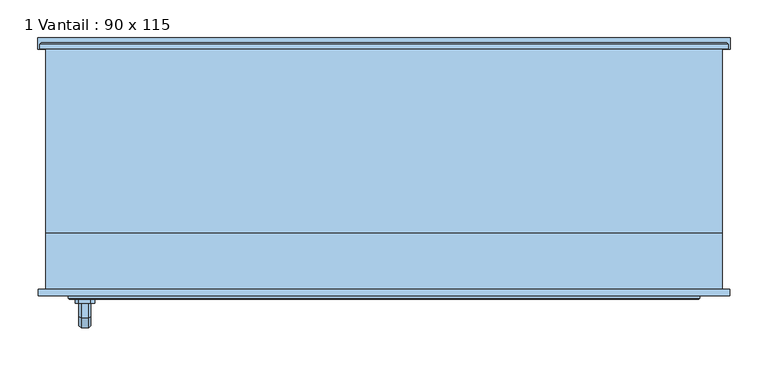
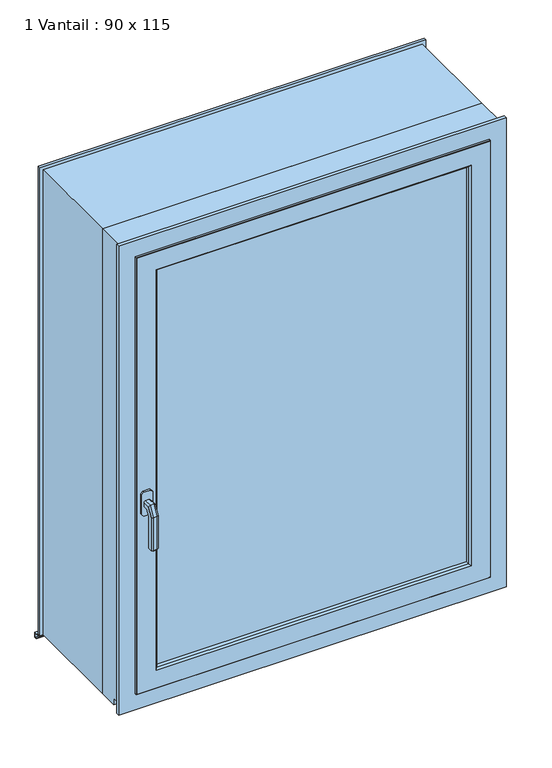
"""IFC4 building model written with IfcOpenShell, lengths in millimetres: window geometry, 1 Vantail : 90 x 115."""

import ifcopenshell
import ifcopenshell.guid

model = None  # the IFC model being written
_history = None  # IfcOwnerHistory: only IFC2X3 demands one
_inside = {}  # id of a spatial element -> (the spatial element, [elements in it])
_under = {}  # id of a project, library or spatial element -> (it, [spatial elements below it])
_declared = {}  # id of a project -> (the project, [libraries it declares])
_typed = {}  # id of a type object -> (the type object, [elements of that type])
_made_of = {}  # id of a material, layer set ... -> (it, [elements and type objects made of it])


def new_model(schema):
    """Start an empty IFC model of exactly this schema.

    Asked for "IFC4X3", IfcOpenShell would pick the latest addendum, in which some entities
    have other attributes; the version numbers below select the first issue.
    IFC2X3 requires an IfcOwnerHistory on every rooted entity: one is made here for all.
    """
    global model, _history
    if schema == "IFC4X3":
        model = ifcopenshell.file(schema_version=(4, 3, 0, 0))
    else:
        model = ifcopenshell.file(schema=schema)
    _inside.clear()
    _under.clear()
    _declared.clear()
    _typed.clear()
    _made_of.clear()
    _history = None
    if model.schema == "IFC2X3":
        org = make("IfcOrganization", Name="unknown")
        user = make(
            "IfcPersonAndOrganization",
            ThePerson=make("IfcPerson", FamilyName="unknown"),
            TheOrganization=org,
        )
        app = make(
            "IfcApplication",
            ApplicationDeveloper=org,
            Version="unknown",
            ApplicationFullName="unknown",
            ApplicationIdentifier="unknown",
        )
        _history = make(
            "IfcOwnerHistory",
            OwningUser=user,
            OwningApplication=app,
            ChangeAction="ADDED",
            CreationDate=0,
        )
    return model


def make(cls, **values):
    """One entity of the class cls with the attributes given. An attribute that is None is left unset."""
    return model.create_entity(
        cls, **{name: value for name, value in values.items() if value is not None}
    )


def rooted(cls, **values):
    """An entity with a GlobalId (a new one), such as an element, a storey or a relation."""
    return make(cls, GlobalId=ifcopenshell.guid.new(), OwnerHistory=_history, **values)


def si_unit(unit_type, name, prefix=None):
    """IfcSIUnit, for example si_unit("LENGTHUNIT", "METRE", prefix="MILLI")."""
    return make("IfcSIUnit", UnitType=unit_type, Prefix=prefix, Name=name)


def assignment(units):
    """IfcUnitAssignment: the units of a project."""
    return None if units is None else make("IfcUnitAssignment", Units=units)


def point(xyz):
    """IfcCartesianPoint."""
    return None if xyz is None else make("IfcCartesianPoint", Coordinates=xyz)


def direction(xyz):
    """IfcDirection."""
    return None if xyz is None else make("IfcDirection", DirectionRatios=xyz)


def frame(location, z_axis=None, x_axis=None):
    """IfcAxis2Placement3D, a coordinate frame: its origin and axes. An axis left out is left unset."""
    return make(
        "IfcAxis2Placement3D",
        Location=point(location),
        Axis=direction(z_axis),
        RefDirection=direction(x_axis),
    )


def origin():
    """The frame at (0, 0, 0) with its axes left unset."""
    return frame((0.0, 0.0, 0.0))


def place(relative_to, where):
    """IfcLocalPlacement: puts the frame where relative to a parent placement (None: the world)."""
    return make(
        "IfcLocalPlacement", PlacementRelTo=relative_to, RelativePlacement=where
    )


def context(
    kind, dimensions, precision=None, world=None, true_north=None, identifier=None
):
    """IfcGeometricRepresentationContext, for example the 3D "Model" context."""
    return make(
        "IfcGeometricRepresentationContext",
        ContextIdentifier=identifier,
        ContextType=kind,
        CoordinateSpaceDimension=dimensions,
        Precision=precision,
        WorldCoordinateSystem=world,
        TrueNorth=true_north,
    )


def project(units=None, contexts=None):
    """IfcProject with its units and contexts."""
    return rooted(
        "IfcProject",
        Name="project",
        RepresentationContexts=contexts,
        UnitsInContext=assignment(units),
    )


def spatial(cls, under=None, at=None, **own):
    """A site, building, storey or space (cls), placed at a placement, below another one or the project."""
    s = rooted(cls, ObjectPlacement=at, **own)
    if under is not None:
        _under.setdefault(under.id(), (under, []))[1].append(s)
    return s


def polyline(points):
    """IfcPolyline through the points."""
    return make("IfcPolyline", Points=[point(p) for p in points])


def outline(outer, holes=None, kind="AREA"):
    """IfcArbitraryClosedProfileDef: a profile drawn as a closed curve; with holes, ...WithVoids."""
    if holes is None:
        return make("IfcArbitraryClosedProfileDef", ProfileType=kind, OuterCurve=outer)
    return make(
        "IfcArbitraryProfileDefWithVoids",
        ProfileType=kind,
        OuterCurve=outer,
        InnerCurves=holes,
    )


def extrude(swept, where, along, depth):
    """IfcExtrudedAreaSolid: the profile swept, set in the frame where, extruded along a direction by depth."""
    return make(
        "IfcExtrudedAreaSolid",
        SweptArea=swept,
        Position=where,
        ExtrudedDirection=direction(along),
        Depth=depth,
    )


def faces_of(points, faces, orient=None, outer=None):
    """IfcFace entities. A face is a list of loops; a loop is a list of indices into points, from 0.

    orient and outer hold one flag for each loop. By default every Orientation is true, the
    first loop of a face is its IfcFaceOuterBound and the others are IfcFaceBound.
    """
    made = []
    for i, loops in enumerate(faces):
        bounds = []
        for j, loop in enumerate(loops):
            is_outer = j == 0 if outer is None else outer[i][j]
            bounds.append(
                make(
                    "IfcFaceOuterBound" if is_outer else "IfcFaceBound",
                    Bound=make("IfcPolyLoop", Polygon=[points[k] for k in loop]),
                    Orientation=True if orient is None else orient[i][j],
                )
            )
        made.append(make("IfcFace", Bounds=bounds))
    return made


def faceted_brep(points, faces, orient=None, outer=None, voids=None):
    """IfcFacetedBrep: a solid bounded by flat faces; with voids (closed shells), ...WithVoids."""
    shared = [point(p) for p in points]
    hull = make("IfcClosedShell", CfsFaces=faces_of(shared, faces, orient, outer))
    if voids is None:
        return make("IfcFacetedBrep", Outer=hull)
    return make(
        "IfcFacetedBrepWithVoids",
        Outer=hull,
        Voids=[
            make(cls, CfsFaces=faces_of(shared, fs, o, b)) for cls, fs, o, b in voids
        ],
    )


def shape(context_of_items, identifier, shape_type, items):
    """IfcShapeRepresentation: the items that make up one representation, for example the "Body"."""
    return make(
        "IfcShapeRepresentation",
        ContextOfItems=context_of_items,
        RepresentationIdentifier=identifier,
        RepresentationType=shape_type,
        Items=items,
    )


def source(mapping_origin, context_of_items, identifier, shape_type, items):
    """IfcRepresentationMap: a shape defined once, which mapped items show again and again."""
    return make(
        "IfcRepresentationMap",
        MappingOrigin=mapping_origin,
        MappedRepresentation=shape(context_of_items, identifier, shape_type, items),
    )


def transform(
    local_origin,
    x_axis=None,
    y_axis=None,
    z_axis=None,
    scale=None,
    scale2=None,
    scale3=None,
    uniform=True,
):
    """IfcCartesianTransformationOperator3D, or its non-uniform kind. x_axis, y_axis, z_axis: its Axis1, 2, 3."""
    if uniform:
        return make(
            "IfcCartesianTransformationOperator3D",
            Axis1=direction(x_axis),
            Axis2=direction(y_axis),
            LocalOrigin=point(local_origin),
            Scale=scale,
            Axis3=direction(z_axis),
        )
    return make(
        "IfcCartesianTransformationOperator3DnonUniform",
        Axis1=direction(x_axis),
        Axis2=direction(y_axis),
        LocalOrigin=point(local_origin),
        Scale=scale,
        Axis3=direction(z_axis),
        Scale2=scale2,
        Scale3=scale3,
    )


def mapped(mapping_source, mapping_target):
    """IfcMappedItem: shows the shape of a source again, moved by a transform."""
    return make(
        "IfcMappedItem", MappingSource=mapping_source, MappingTarget=mapping_target
    )


def made_of(thing, what):
    """Note that an element or type object is made of a material, layer set ...; save() writes the relation."""
    if what is not None:
        _made_of.setdefault(what.id(), (what, []))[1].append(thing)
    return thing


def element(
    cls,
    number,
    at=None,
    inside=None,
    cuts=None,
    type_object=None,
    material=None,
    context=None,
    identifier="Body",
    shape_type=None,
    held_by="IfcProductDefinitionShape",
    body=None,
    shapes=None,
    **own,
):
    """One element of the class cls, such as IfcWall. Its Tag is "e" and its number.

    at: its placement. inside: the storey or other place that contains it. cuts: it is an
    opening in that element (IfcRelVoidsElement). A single representation is given by context,
    identifier, shape_type and body (its items); several are given by shapes. held_by: the class
    of the entity that holds the representations. save() writes the other relations.
    """
    e = rooted(cls, Tag="e%d" % number, ObjectPlacement=at, **own)
    if body is not None:
        shapes = [shape(context, identifier, shape_type, body)]
    if shapes is not None:
        e.Representation = make(held_by, Representations=shapes)
    if inside is not None:
        _inside.setdefault(inside.id(), (inside, []))[1].append(e)
    if cuts is not None:
        rooted(
            "IfcRelVoidsElement", RelatingBuildingElement=cuts, RelatedOpeningElement=e
        )
    if type_object is not None:
        _typed.setdefault(type_object.id(), (type_object, []))[1].append(e)
    return made_of(e, material)


def aggregate(whole, parts):
    """IfcRelAggregates: a whole, such as a stair, and the parts it consists of."""
    return rooted("IfcRelAggregates", RelatingObject=whole, RelatedObjects=parts)


def save(model, path):
    """Write the relations noted so far, then the file.

    IfcRelAggregates (storeys below a building ...), IfcRelContainedInSpatialStructure (elements
    in a storey), IfcRelDefinesByType, IfcRelAssociatesMaterial and IfcRelDeclares: one each for
    every whole, place, type object, material and project.
    """
    for whole, parts in _under.values():
        aggregate(whole, parts)
    for where, things in _inside.values():
        rooted(
            "IfcRelContainedInSpatialStructure",
            RelatedElements=things,
            RelatingStructure=where,
        )
    for kind, things in _typed.values():
        rooted("IfcRelDefinesByType", RelatedObjects=things, RelatingType=kind)
    for what, things in _made_of.values():
        rooted("IfcRelAssociatesMaterial", RelatedObjects=things, RelatingMaterial=what)
    for by, libraries in _declared.values():
        rooted("IfcRelDeclares", RelatingContext=by, RelatedDefinitions=libraries)
    model.write(path)


def window_1_vantail_90_x_115_acd99d6d(model_context):
    return source(origin(), model_context, "Body", "SolidModel", [
        faceted_brep([(-392.6576166, -178.0471229, 1308.0), (-389.6755267, -178.0471229, 1305.0179101), (-389.6755267, -178.0471229, 1294.9820899), (-392.6576166, -178.0471229, 1292.0), (-402.6934369, -178.0471229, 1292.0), (-405.6755267, -178.0471229, 1294.9820899), (-405.6755267, -178.0471229, 1305.0179101), (-402.6934369, -178.0471229, 1308.0), (-392.6576166, -197.665925, 1308.0), (-389.6755267, -195.9442146, 1305.0179101), (-389.6755267, -208.065033, 1284.0240369), (-389.6755267, -208.065033, 1201.9658946), (-389.6755267, -198.0292127, 1201.9658946), (-389.6755267, -198.0292127, 1281.334947), (-389.6755267, -190.1500311, 1294.9820899), (-392.6576166, -188.4283207, 1292.0), (-402.6934369, -188.4283207, 1292.0), (-405.6755267, -190.1500311, 1294.9820899), (-405.6755267, -198.0292127, 1281.334947), (-405.6755267, -198.0292127, 1201.9658946), (-405.6755267, -208.065033, 1201.9658946), (-405.6755267, -208.065033, 1284.0240369), (-405.6755267, -195.9442146, 1305.0179101), (-402.6934369, -197.665925, 1308.0), (-392.6576166, -211.0471229, 1284.8230855), (-392.6576166, -195.0471229, 1280.5358984), (-402.6934369, -195.0471229, 1280.5358984), (-402.6934369, -211.0471229, 1284.8230855), (-401.8791367, -209.0812283, 1200.0), (-403.7096322, -207.2507328, 1200.0), (-403.7096322, -198.8435129, 1200.0), (-401.8791367, -197.0130174, 1200.0), (-393.4719168, -197.0130174, 1200.0), (-391.6414213, -198.8435129, 1200.0), (-391.6414213, -207.2507328, 1200.0), (-393.4719168, -209.0812283, 1200.0), (-392.6576166, -211.0471229, 1201.9658946), (-392.6576166, -195.0471229, 1201.9658946), (-402.6934369, -195.0471229, 1201.9658946), (-402.6934369, -211.0471229, 1201.9658946)], [[[0, 1, 2, 3, 4, 5, 6, 7]], [[1, 0, 8, 9]], [[2, 1, 9, 10, 11, 12, 13, 14]], [[3, 2, 14, 15]], [[4, 3, 15, 16]], [[5, 4, 16, 17]], [[6, 5, 17, 18, 19, 20, 21, 22]], [[7, 6, 22, 23]], [[0, 7, 23, 8]], [[9, 8, 24, 10]], [[14, 13, 25, 15]], [[16, 15, 25, 26]], [[17, 16, 26, 18]], [[22, 21, 27, 23]], [[8, 23, 27, 24]], [[28, 29, 30, 31, 32, 33, 34, 35]], [[10, 24, 36, 11]], [[25, 13, 12, 37]], [[26, 25, 37, 38]], [[18, 26, 38, 19]], [[27, 21, 20, 39]], [[24, 27, 39, 36]], [[20, 29, 28, 39]], [[29, 20, 19, 30]], [[30, 19, 38, 31]], [[31, 38, 37, 32]], [[32, 37, 12, 33]], [[33, 12, 11, 34]], [[34, 11, 36, 35]], [[39, 28, 35, 36]]]),
        extrude(outline(polyline([(1270.0, -389.6755267), (1275.0, -384.6755267), (1325.0, -384.6755267), (1330.0, -389.6755267), (1330.0, -405.6755267), (1325.0, -410.6755267), (1275.0, -410.6755267), (1270.0, -405.6755267), (1270.0, -389.6755267)])), frame((0.0, -178.0471229, 0.0), z_axis=(0.0, 1.0, 0.0), x_axis=(0.0, 0.0, 1.0)), (0.0, 0.0, 1.0), 5.0),
        faceted_brep([(-425.6755267, -80.0, 813.8687943), (-425.6755267, -80.0, 795.0), (-425.6755267, -82.0, 795.0), (-425.6755267, -82.0, 800.0), (-425.6755267, -85.0, 800.0), (-425.6755267, -85.0, 814.2950679), (425.6755267, -80.0, 813.8687943), (425.6755267, -80.0, 795.0), (425.6755267, -82.0, 795.0), (425.6755267, -82.0, 800.0), (425.6755267, -85.0, 800.0), (425.0, -85.6755267, 800.0), (425.0, -120.0, 800.0), (410.0, -120.0, 800.0), (410.0, -130.0, 800.0), (450.0, -130.0, 800.0), (450.0, -160.0, 800.0), (-450.0, -160.0, 800.0), (-450.0, -130.0, 800.0), (-410.0, -130.0, 800.0), (-410.0, -120.0, 800.0), (-425.0, -120.0, 800.0), (-425.0, -85.6755267, 800.0), (-425.6755267, -85.0, 783.5), (-450.0, -85.0, 783.5), (-450.0, -85.0, 1950.0), (450.0, -85.0, 1950.0), (450.0, -85.0, 783.5), (425.6755267, -85.0, 783.5), (425.6755267, -85.0, 814.2950679), (425.6755267, -85.0, 1925.6755267), (-425.6755267, -85.0, 1925.6755267), (-425.0, -85.6755267, 814.3526597), (-425.0, -120.0, 817.278983), (425.0, -120.0, 817.278983), (425.0, -85.6755267, 814.3526597), (-460.0, -160.0, 783.5), (-460.0, -160.0, 1960.0), (460.0, -160.0, 1960.0), (460.0, -160.0, 783.5), (450.0, -160.0, 1950.0), (-450.0, -160.0, 1950.0), (-460.0, -168.0, 783.5), (-460.0, -168.0, 1960.0), (460.0, -168.0, 1960.0), (460.0, -168.0, 783.5), (450.0, -130.0, 783.5), (410.0, -130.0, 783.5), (410.0, -120.0, 783.5), (425.0, -120.0, 783.5), (425.0, -85.6755267, 783.5), (-425.0, -85.6755267, 783.5), (-425.0, -120.0, 783.5), (-410.0, -120.0, 783.5), (-410.0, -130.0, 783.5), (-450.0, -130.0, 783.5), (-420.0, -168.0, 1920.0), (420.0, -168.0, 1920.0), (420.0, -168.0, 823.5), (-420.0, -168.0, 823.5), (420.0, -130.0, 1920.0), (420.0, -130.0, 823.5), (-420.0, -130.0, 823.5), (-420.0, -130.0, 1920.0), (-410.0, -130.0, 1910.0), (410.0, -130.0, 1910.0), (410.0, -130.0, 833.5), (-410.0, -130.0, 833.5), (410.0, -120.0, 1910.0), (410.0, -120.0, 833.5), (-410.0, -120.0, 833.5), (-410.0, -120.0, 1910.0), (-425.0, -120.0, 1925.0), (425.0, -120.0, 1925.0), (-425.0, -85.6755267, 1925.0), (425.0, -85.6755267, 1925.0)], [[[0, 1, 2, 3, 4, 5]], [[1, 0, 6, 7]], [[2, 1, 7, 8]], [[3, 2, 8, 9]], [[3, 9, 10, 11, 12, 13, 14, 15, 16, 17, 18, 19, 20, 21, 22, 4]], [[23, 24, 25, 26, 27, 28, 10, 29, 30, 31, 5, 4]], [[6, 0, 5, 32, 33, 34, 35, 29]], [[9, 8, 7, 6, 29, 10]], [[36, 37, 38, 39], [16, 40, 41, 17]], [[36, 42, 43, 37]], [[39, 38, 44, 45]], [[28, 27, 46, 47, 48, 49, 50]], [[42, 36, 39, 45]], [[23, 51, 52, 53, 54, 55, 24]], [[27, 26, 40, 16, 15, 46]], [[41, 25, 24, 55, 18, 17]], [[45, 44, 43, 42], [56, 57, 58, 59]], [[57, 60, 61, 58]], [[59, 58, 61, 62]], [[63, 56, 59, 62]], [[46, 15, 14, 47]], [[54, 19, 18, 55]], [[60, 63, 62, 61], [64, 65, 66, 67]], [[48, 47, 14, 13]], [[65, 68, 69, 66]], [[67, 66, 69, 70]], [[54, 53, 20, 19]], [[71, 64, 67, 70]], [[53, 52, 21, 20]], [[49, 48, 13, 12]], [[72, 73, 34, 33], [68, 71, 70, 69]], [[52, 51, 22, 21]], [[74, 72, 33, 32]], [[50, 49, 12, 11]], [[73, 75, 35, 34]], [[51, 23, 4, 22]], [[31, 74, 32, 5]], [[28, 50, 11, 10]], [[75, 30, 29, 35]], [[25, 41, 40, 26]], [[72, 74, 75, 73]], [[71, 68, 65, 64]], [[63, 60, 57, 56]], [[38, 37, 43, 44]], [[31, 30, 75, 74]]]),
        extrude(outline(polyline([(-376.0, -143.5), (376.0, -143.5), (376.0, -159.5), (-376.0, -159.5), (-376.0, -143.5)])), frame((0.0, 0.0, 867.5), z_axis=(0.0, 0.0, 1.0), x_axis=(1.0, 0.0, 0.0)), (0.0, 0.0, 1.0), 1008.5),
        faceted_brep([(420.0, -131.5, 1920.0), (420.0, -171.5471229, 1920.0), (420.0, -171.5471229, 823.5), (420.0, -131.5, 823.5), (418.5, -173.0471229, 1918.5), (418.5, -173.0471229, 825.0), (-420.0, -171.5471229, 823.5), (-420.0, -131.5, 823.5), (418.5, -130.0, 1918.5), (418.5, -130.0, 825.0), (374.0588745, -173.0471229, 1874.0588745), (370.0, -168.9882484, 1870.0), (370.0, -168.9882484, 873.5), (374.0588745, -173.0471229, 869.4411255), (370.0, -159.5235614, 1870.0), (370.0, -159.5235614, 873.5), (-370.0, -168.9882484, 873.5), (-374.0588745, -173.0471229, 869.4411255), (-418.5, -173.0471229, 1918.5), (-418.5, -173.0471229, 825.0), (-374.0588745, -173.0471229, 1874.0588745), (376.0, -159.5235614, 867.5), (-376.0, -159.5235614, 867.5), (-376.0, -159.5235614, 1876.0), (376.0, -159.5235614, 1876.0), (-370.0, -159.5235614, 1870.0), (-370.0, -159.5235614, 873.5), (376.0, -143.5235614, 1876.0), (376.0, -143.5235614, 867.5), (-376.0, -143.5235614, 1876.0), (-376.0, -143.5235614, 867.5), (370.0, -143.5235614, 873.5), (-370.0, -143.5235614, 873.5), (-370.0, -143.5235614, 1870.0), (370.0, -143.5235614, 1870.0), (370.0, -134.0588745, 1870.0), (370.0, -134.0588745, 873.5), (374.0588745, -130.0, 1874.0588745), (374.0588745, -130.0, 869.4411255), (-370.0, -134.0588745, 873.5), (-418.5, -130.0, 825.0), (-418.5, -130.0, 1918.5), (-374.0588745, -130.0, 1874.0588745), (-374.0588745, -130.0, 869.4411255), (-420.0, -171.5471229, 1920.0), (-420.0, -131.5, 1920.0), (-370.0, -168.9882484, 1870.0), (-370.0, -134.0588745, 1870.0)], [[[0, 1, 2, 3]], [[1, 4, 5, 2]], [[3, 2, 6, 7]], [[8, 0, 3, 9]], [[10, 11, 12, 13]], [[11, 14, 15, 12]], [[13, 12, 16, 17]], [[4, 18, 19, 5], [13, 17, 20, 10]], [[21, 22, 23, 24], [14, 25, 26, 15]], [[12, 15, 26, 16]], [[24, 27, 28, 21]], [[27, 29, 30, 28], [31, 32, 33, 34]], [[21, 28, 30, 22]], [[34, 35, 36, 31]], [[35, 37, 38, 36]], [[31, 36, 39, 32]], [[9, 40, 41, 8], [37, 42, 43, 38]], [[36, 38, 43, 39]], [[2, 5, 19, 6]], [[7, 6, 44, 45]], [[9, 3, 7, 40]], [[17, 16, 46, 20]], [[16, 26, 25, 46]], [[22, 30, 29, 23]], [[32, 39, 47, 33]], [[39, 43, 42, 47]], [[6, 19, 18, 44]], [[40, 7, 45, 41]], [[47, 42, 37, 35]], [[33, 47, 35, 34]], [[23, 29, 27, 24]], [[46, 25, 14, 11]], [[20, 46, 11, 10]], [[45, 44, 1, 0]], [[41, 45, 0, 8]], [[44, 18, 4, 1]]]),
        faceted_brep([(-425.6755267, -85.0, 783.5), (-450.0, -85.0, 783.5), (-450.0, 160.0, 783.5), (-458.0, 160.0, 783.5), (-458.0, 166.1421356, 783.5), (-456.1421356, 168.0, 783.5), (-428.8578644, 168.0, 783.5), (-425.6755267, 164.8176624, 783.5), (-425.6755267, -85.0, 1925.6755267), (425.6755267, -85.0, 1925.6755267), (425.6755267, -85.0, 783.5), (450.0, -85.0, 783.5), (450.0, -85.0, 1950.0), (-450.0, -85.0, 1950.0), (-450.0, 160.0, 1950.0), (450.0, 160.0, 1950.0), (450.0, 160.0, 783.5), (458.0, 160.0, 783.5), (458.0, 160.0, 1958.0), (-458.0, 160.0, 1958.0), (-458.0, 166.1421356, 1958.0), (-456.1421356, 168.0, 1956.1421356), (456.1421356, 168.0, 1956.1421356), (456.1421356, 168.0, 783.5), (428.8578644, 168.0, 783.5), (428.8578644, 168.0, 1928.8578644), (-428.8578644, 168.0, 1928.8578644), (-425.6755267, 164.8176624, 1925.6755267), (425.6755267, 164.8176624, 1925.6755267), (425.6755267, 164.8176624, 783.5), (458.0, 166.1421356, 783.5), (458.0, 166.1421356, 1958.0)], [[[0, 1, 2, 3, 4, 5, 6, 7]], [[1, 0, 8, 9, 10, 11, 12, 13]], [[2, 1, 13, 14]], [[3, 2, 14, 15, 16, 17, 18, 19]], [[4, 3, 19, 20]], [[5, 4, 20, 21]], [[6, 5, 21, 22, 23, 24, 25, 26]], [[7, 6, 26, 27]], [[0, 7, 27, 8]], [[9, 28, 29, 10]], [[10, 29, 24, 23, 30, 17, 16, 11]], [[15, 12, 11, 16]], [[31, 18, 17, 30]], [[22, 31, 30, 23]], [[28, 25, 24, 29]], [[14, 13, 12, 15]], [[20, 19, 18, 31]], [[21, 20, 31, 22]], [[27, 26, 25, 28]], [[8, 27, 28, 9]]]),
        extrude(outline(polyline([(-95.0, 800.0), (-95.0, 793.2835821), (120.0, 784.2985075), (120.0, 765.0), (-130.0, 765.0), (-130.0, 800.0), (-95.0, 800.0)])), frame((-425.6755267, 0.0, 0.0), z_axis=(1.0, 0.0, 0.0), x_axis=(0.0, 1.0, 0.0)), (0.0, 0.0, 1.0), 851.3510535),
        faceted_brep([(-425.6755267, -95.0, 793.2835821), (-425.6755267, -95.0, 797.4781943), (-425.6755267, -93.5, 797.4781943), (-425.6755267, -93.5, 794.7222048), (-425.6755267, 160.0, 784.128175), (-425.6755267, 160.0, 782.6268657), (425.6755267, -93.5, 794.7222048), (425.6755267, -93.5, 797.4781943), (425.6755267, -95.0, 797.4781943), (425.6755267, -95.0, 793.2835821), (425.6755267, 160.0, 782.6268657), (425.6755267, 160.0, 784.128175), (460.6755267, 160.0, 784.128175), (460.6755267, 175.0, 783.5013093), (-460.6755267, 175.0, 783.5013093), (-460.6755267, 160.0, 784.128175), (460.6755267, 175.0, 771.0), (-460.6755267, 175.0, 771.0), (460.6755267, 168.5, 771.0), (-460.6755267, 168.5, 771.0), (460.6755267, 168.5, 772.5), (-460.6755267, 168.5, 772.5), (460.6755267, 173.5, 772.5), (-460.6755267, 173.5, 772.5), (460.6755267, 173.5, 782.0626866), (-460.6755267, 173.5, 782.0626866), (-460.6755267, 160.0, 782.6268657), (460.6755267, 160.0, 782.6268657)], [[[0, 1, 2, 3, 4, 5]], [[6, 7, 8, 9, 10, 11]], [[1, 0, 9, 8]], [[2, 1, 8, 7]], [[3, 2, 7, 6]], [[3, 6, 11, 12, 13, 14, 15, 4]], [[14, 13, 16, 17]], [[17, 16, 18, 19]], [[19, 18, 20, 21]], [[21, 20, 22, 23]], [[23, 22, 24, 25]], [[9, 0, 5, 26, 25, 24, 27, 10]], [[12, 27, 24, 22, 20, 18, 16, 13]], [[27, 12, 11, 10]], [[14, 17, 19, 21, 23, 25, 26, 15]], [[15, 26, 5, 4]]]),
    ])


if __name__ == "__main__":
    model = new_model("IFC4")
    model_context = context("Model", 3, world=origin())
    ifc_project = project(units=[si_unit("LENGTHUNIT", "METRE", prefix="MILLI")], contexts=[model_context])
    site = spatial("IfcSite", under=ifc_project)
    building = spatial("IfcBuilding", under=site)
    placement = place(None, origin())
    window_1_vantail_90_x_115_shape = window_1_vantail_90_x_115_acd99d6d(model_context)
    element("IfcWindow", 1, ObjectType="1 Vantail : 90 x 115", at=placement, inside=building, context=model_context, shape_type="MappedRepresentation", body=[
        mapped(window_1_vantail_90_x_115_shape, transform((0.0, 0.0, 0.0), x_axis=(1.0, 0.0, 0.0), y_axis=(0.0, 1.0, 0.0), z_axis=(0.0, 0.0, 1.0))),
    ])
    save(model, "model.ifc")
